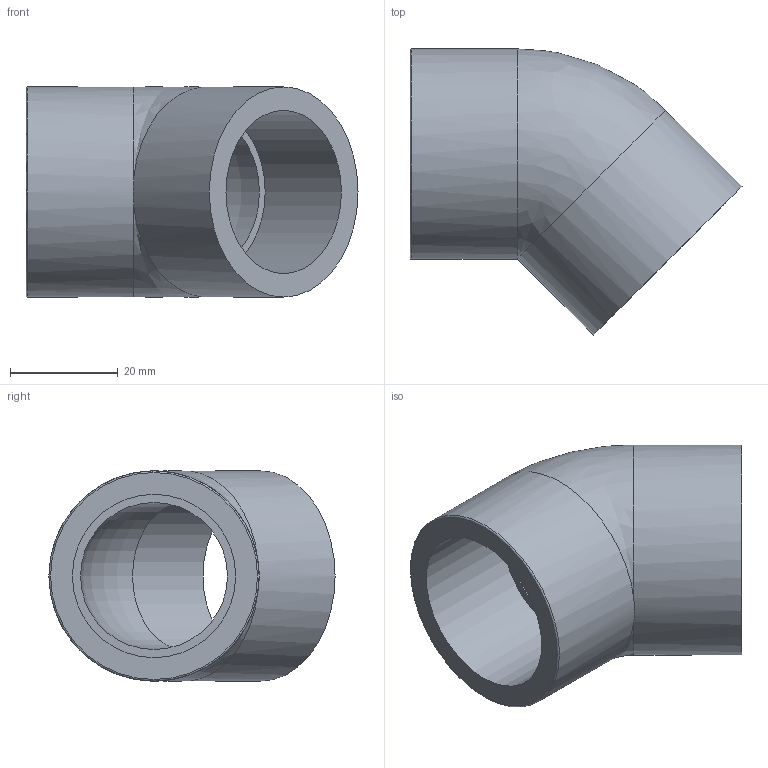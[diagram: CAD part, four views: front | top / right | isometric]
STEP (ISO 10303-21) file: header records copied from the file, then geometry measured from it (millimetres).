
FILE_DESCRIPTION(/* description */ ('PLASSON THREADED 45° ELBOW HF 1"'),/* implementation_level */ '2;1');
FILE_NAME(/* name */ 'C:\Dropbox\KIMPROJECTS-Inventor\99-16-3568-Processing\PVC Catalog 2017\26_09_18\054501\054501010.ipt.stp',/* time_stamp */ '2018-09-27T11:50:31+03:00',/* author */ ('KIM'),/* organization */ (''),/* preprocessor_version */ 'ST-DEVELOPER v15.6',/* originating_system */ 'Autodesk Inventor 2015',/* authorisation */ '');
FILE_SCHEMA (('AUTOMOTIVE_DESIGN { 1 0 10303 214 3 1 1 }'));
Length unit declared in the file: millimetre
Products named in the file (1): 054501010
Bounding box: 61.59 x 53.09 x 39 mm (x, y, z)
Volume: 28472.6 mm3; surface area: 13075.2 mm2
Topology: 1 solids, 1 shells, 11 faces, 22 edges, 13 vertices
Faces by surface type: cylinder 4, plane 4, torus 2, bspline 1
Full cylindrical faces by diameter (mm): 30.291 x2, 39 x2
Entity records: 280 total; most frequent: CARTESIAN_POINT 61, DIRECTION 46, ORIENTED_EDGE 24, AXIS2_PLACEMENT_3D 23, EDGE_LOOP 21, EDGE_CURVE 12, FACE_OUTER_BOUND 11, CIRCLE 11
